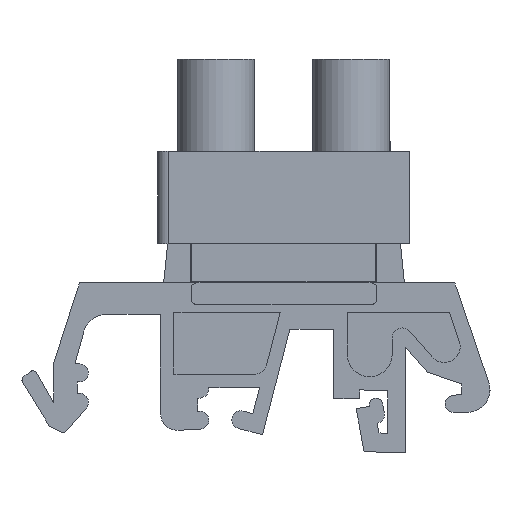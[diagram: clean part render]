
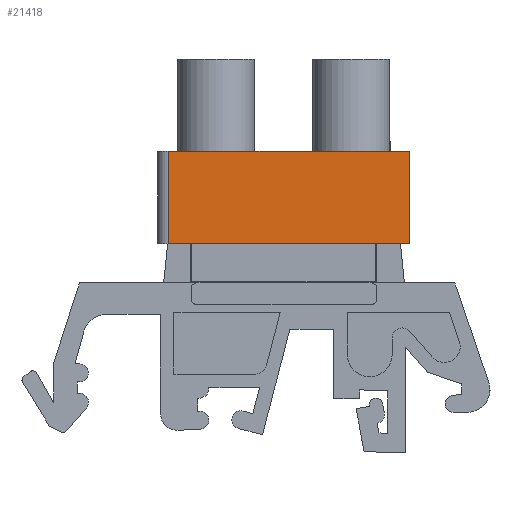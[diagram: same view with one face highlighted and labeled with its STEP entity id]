
A CAD part, left-side view. The second image highlights one B-rep face of the part: STEP entity #21418.
In plain terms, the highlighted planar face has unit normal (-1, 0, 0).
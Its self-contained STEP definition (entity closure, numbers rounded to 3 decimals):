
#4236=ORIENTED_EDGE('',*,*,#9266,.T.);
#4237=ORIENTED_EDGE('',*,*,#9267,.T.);
#4238=ORIENTED_EDGE('',*,*,#9259,.T.);
#4239=ORIENTED_EDGE('',*,*,#9268,.F.);
#9259=EDGE_CURVE('',#11798,#11799,#14099,.T.);
#9266=EDGE_CURVE('',#11804,#11805,#14106,.F.);
#9267=EDGE_CURVE('',#11805,#11798,#14107,.T.);
#9268=EDGE_CURVE('',#11804,#11799,#14108,.T.);
#11798=VERTEX_POINT('',#34138);
#11799=VERTEX_POINT('',#34139);
#11804=VERTEX_POINT('',#34152);
#11805=VERTEX_POINT('',#34153);
#14099=LINE('',#34137,#16541);
#14106=LINE('',#34151,#16548);
#14107=LINE('',#34154,#16549);
#14108=LINE('',#34155,#16550);
#16541=VECTOR('',#27243,1000.);
#16548=VECTOR('',#27252,1000.);
#16549=VECTOR('',#27253,1000.);
#16550=VECTOR('',#27254,1000.);
#17822=EDGE_LOOP('',(#4236,#4237,#4238,#4239));
#19186=FACE_BOUND('',#17822,.T.);
#20388=PLANE('',#22901);
#21418=ADVANCED_FACE('',(#19186),#20388,.F.);
#22901=AXIS2_PLACEMENT_3D('',#34150,#27250,#27251);
#27243=DIRECTION('',(0.,0.,1.));
#27250=DIRECTION('',(1.,0.,0.));
#27251=DIRECTION('',(0.,0.,-1.));
#27252=DIRECTION('',(0.,0.,1.));
#27253=DIRECTION('',(0.,-1.,0.));
#27254=DIRECTION('',(0.,-1.,0.));
#34137=CARTESIAN_POINT('',(-3.8,0.,-4.1));
#34138=CARTESIAN_POINT('',(-3.8,0.,-4.1));
#34139=CARTESIAN_POINT('',(-3.8,0.,4.1));
#34150=CARTESIAN_POINT('',(-3.8,22.4,-4.1));
#34151=CARTESIAN_POINT('',(-3.8,21.4,-4.1));
#34152=CARTESIAN_POINT('',(-3.8,21.4,4.1));
#34153=CARTESIAN_POINT('',(-3.8,21.4,-4.1));
#34154=CARTESIAN_POINT('',(-3.8,22.4,-4.1));
#34155=CARTESIAN_POINT('',(-3.8,22.4,4.1));
